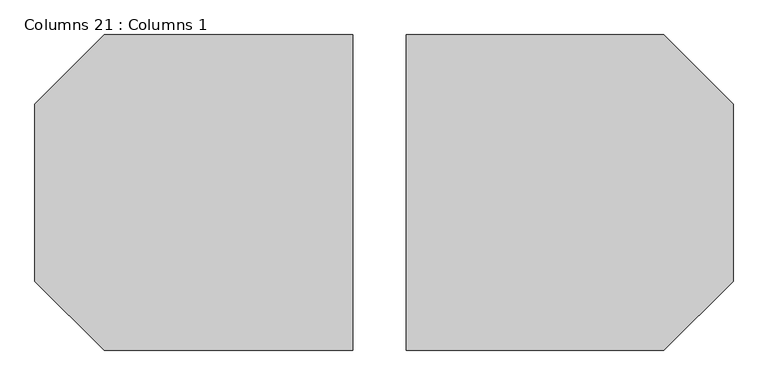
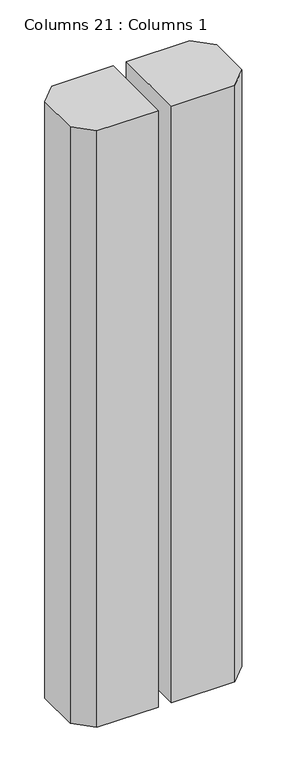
"""IFC4 building model written with IfcOpenShell, lengths in millimetres: column geometry, Columns 21 : Columns 1."""

from ifc_helpers import new_model, si_unit, origin, origin_with_axes, place, context, project, spatial, polyline, outline, extrude, source, transform, mapped, element, save


def columns_21_columns_1_8a92f6ab(model_context):
    return source(origin(), model_context, "Body", "SweptSolid", [
        extrude(outline(polyline([(-18047.4616734, 110890.5418364), (-18403.0616734, 110890.5418364), (-18501.8444907, 110989.3246538), (-18501.8444907, 111243.3246538), (-18403.0616734, 111342.1074711), (-18047.4616734, 111342.1074711), (-18047.4616734, 110890.5418364)])), origin_with_axes(), (0.0, 0.0, 1.0), 3659.3047255),
        extrude(outline(polyline([(-17504.1788561, 110989.3246538), (-17602.9616734, 110890.5418364), (-17971.2616734, 110890.5418364), (-17971.2616734, 111342.1074711), (-17602.9616734, 111342.1074711), (-17504.1788561, 111243.3246538), (-17504.1788561, 110989.3246538)])), origin_with_axes(), (0.0, 0.0, 1.0), 3659.3047255),
    ])


if __name__ == "__main__":
    model = new_model("IFC4")
    model_context = context("Model", 3, world=origin())
    ifc_project = project(units=[si_unit("LENGTHUNIT", "METRE", prefix="MILLI")], contexts=[model_context])
    site = spatial("IfcSite", under=ifc_project)
    building = spatial("IfcBuilding", under=site)
    placement = place(None, origin())
    columns_21_columns_1_shape = columns_21_columns_1_8a92f6ab(model_context)
    element("IfcColumn", 1, ObjectType="Columns 21 : Columns 1", at=placement, inside=building, context=model_context, shape_type="MappedRepresentation", body=[
        mapped(columns_21_columns_1_shape, transform((0.0, 0.0, 0.0), x_axis=(1.0, 0.0, 0.0), y_axis=(0.0, 1.0, 0.0), z_axis=(0.0, 0.0, 1.0))),
    ])
    save(model, "model.ifc")
